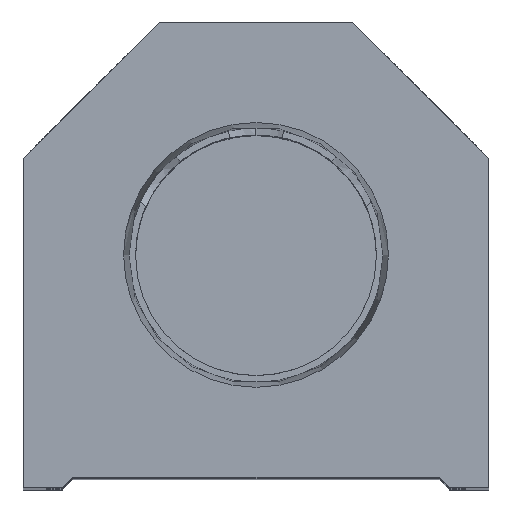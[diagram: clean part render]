
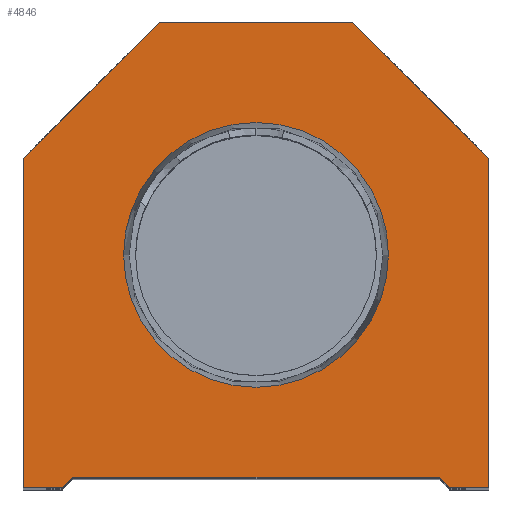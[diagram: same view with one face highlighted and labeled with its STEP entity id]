
A CAD part, top view. The second image highlights one B-rep face of the part: STEP entity #4846.
In plain terms, the highlighted planar face has unit normal (0, 0, 1).
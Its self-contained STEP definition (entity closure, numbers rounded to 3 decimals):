
#111 = LINE ( 'NONE', #5205, #10422 ) ;
#170 = CIRCLE ( 'NONE', #5237, 12.647 ) ;
#198 = VERTEX_POINT ( 'NONE', #19492 ) ;
#1074 = VECTOR ( 'NONE', #6109, 1000. ) ;
#1199 = EDGE_CURVE ( 'NONE', #21763, #7951, #7339, .T. ) ;
#1378 = DIRECTION ( 'NONE',  ( 1., 0., 0. ) ) ;
#1529 = VERTEX_POINT ( 'NONE', #7600 ) ;
#1793 = CARTESIAN_POINT ( 'NONE',  ( -17.5, 1., 0. ) ) ;
#2570 = CARTESIAN_POINT ( 'NONE',  ( 9.25, 44.5, 0. ) ) ;
#2927 = VERTEX_POINT ( 'NONE', #11822 ) ;
#3158 = CARTESIAN_POINT ( 'NONE',  ( -9.25, 44.5, 0. ) ) ;
#3319 = DIRECTION ( 'NONE',  ( -0.707, 0.707, 0. ) ) ;
#3434 = DIRECTION ( 'NONE',  ( 0., 0., 1. ) ) ;
#3526 = LINE ( 'NONE', #1793, #3994 ) ;
#3585 = ORIENTED_EDGE ( 'NONE', *, *, #5866, .T. ) ;
#3602 = ORIENTED_EDGE ( 'NONE', *, *, #13713, .T. ) ;
#3994 = VECTOR ( 'NONE', #10505, 1000. ) ;
#4699 = ORIENTED_EDGE ( 'NONE', *, *, #18335, .T. ) ;
#4783 = LINE ( 'NONE', #6697, #20861 ) ;
#4846 = ADVANCED_FACE ( 'NONE', ( #21048, #20828 ), #15485, .T. ) ;
#4848 = CIRCLE ( 'NONE', #19265, 12.647 ) ;
#5043 = EDGE_CURVE ( 'NONE', #11147, #18253, #111, .T. ) ;
#5205 = CARTESIAN_POINT ( 'NONE',  ( 9.25, 44.5, 0. ) ) ;
#5237 = AXIS2_PLACEMENT_3D ( 'NONE', #7274, #12464, #1378 ) ;
#5351 = DIRECTION ( 'NONE',  ( 1., 0., 0. ) ) ;
#5744 = VERTEX_POINT ( 'NONE', #15981 ) ;
#5866 = EDGE_CURVE ( 'NONE', #198, #2927, #13925, .T. ) ;
#5959 = CARTESIAN_POINT ( 'NONE',  ( -18.5, 0., 0. ) ) ;
#6109 = DIRECTION ( 'NONE',  ( 0.707, 0.707, 0. ) ) ;
#6140 = LINE ( 'NONE', #6242, #20048 ) ;
#6242 = CARTESIAN_POINT ( 'NONE',  ( 17.5, 0., 0. ) ) ;
#6467 = CARTESIAN_POINT ( 'NONE',  ( 9.25, 9.25, 0. ) ) ;
#6625 = CARTESIAN_POINT ( 'NONE',  ( -22.25, 0., 0. ) ) ;
#6697 = CARTESIAN_POINT ( 'NONE',  ( 22.25, 31.5, 0. ) ) ;
#6868 = CARTESIAN_POINT ( 'NONE',  ( -17.5, 0., 0. ) ) ;
#7012 = DIRECTION ( 'NONE',  ( -1., 0., 0. ) ) ;
#7274 = CARTESIAN_POINT ( 'NONE',  ( 0., 22.25, 0. ) ) ;
#7339 = LINE ( 'NONE', #17963, #19751 ) ;
#7600 = CARTESIAN_POINT ( 'NONE',  ( 17.5, 1., 0. ) ) ;
#7888 = ORIENTED_EDGE ( 'NONE', *, *, #19766, .F. ) ;
#7951 = VERTEX_POINT ( 'NONE', #6625 ) ;
#8744 = CARTESIAN_POINT ( 'NONE',  ( 22.25, 0., 0. ) ) ;
#8776 = ORIENTED_EDGE ( 'NONE', *, *, #10042, .T. ) ;
#8871 = VECTOR ( 'NONE', #13315, 1000. ) ;
#9117 = EDGE_CURVE ( 'NONE', #5744, #19229, #170, .T. ) ;
#9135 = VECTOR ( 'NONE', #17123, 1000. ) ;
#9822 = DIRECTION ( 'NONE',  ( 1., 0., 0. ) ) ;
#10042 = EDGE_CURVE ( 'NONE', #18253, #21763, #17136, .T. ) ;
#10232 = ORIENTED_EDGE ( 'NONE', *, *, #1199, .T. ) ;
#10406 = VECTOR ( 'NONE', #20519, 1000. ) ;
#10422 = VECTOR ( 'NONE', #7012, 1000. ) ;
#10505 = DIRECTION ( 'NONE',  ( 1., 0., 0. ) ) ;
#10739 = EDGE_LOOP ( 'NONE', ( #4699, #20853, #13736, #11602, #3602, #3585, #11698, #10834, #8776, #10232 ) ) ;
#10834 = ORIENTED_EDGE ( 'NONE', *, *, #5043, .T. ) ;
#11147 = VERTEX_POINT ( 'NONE', #2570 ) ;
#11397 = CARTESIAN_POINT ( 'NONE',  ( 0., 22.25, 0. ) ) ;
#11602 = ORIENTED_EDGE ( 'NONE', *, *, #20490, .T. ) ;
#11698 = ORIENTED_EDGE ( 'NONE', *, *, #22130, .T. ) ;
#11720 = CARTESIAN_POINT ( 'NONE',  ( -22.25, 31.5, 0. ) ) ;
#11822 = CARTESIAN_POINT ( 'NONE',  ( 22.25, 31.5, 0. ) ) ;
#11855 = DIRECTION ( 'NONE',  ( 0., 0., 1. ) ) ;
#11942 = DIRECTION ( 'NONE',  ( -0.707, -0.707, 0. ) ) ;
#12030 = LINE ( 'NONE', #6868, #9135 ) ;
#12180 = AXIS2_PLACEMENT_3D ( 'NONE', #17310, #3434, #5351 ) ;
#12220 = EDGE_CURVE ( 'NONE', #21294, #1529, #3526, .T. ) ;
#12464 = DIRECTION ( 'NONE',  ( 0., 0., 1. ) ) ;
#12908 = CARTESIAN_POINT ( 'NONE',  ( -17.5, 1., 0. ) ) ;
#13117 = EDGE_CURVE ( 'NONE', #21120, #21294, #19206, .T. ) ;
#13254 = CARTESIAN_POINT ( 'NONE',  ( 12.647, 22.25, 0. ) ) ;
#13315 = DIRECTION ( 'NONE',  ( 0.707, -0.707, 0. ) ) ;
#13713 = EDGE_CURVE ( 'NONE', #18248, #198, #6140, .T. ) ;
#13736 = ORIENTED_EDGE ( 'NONE', *, *, #12220, .T. ) ;
#13925 = LINE ( 'NONE', #8744, #10406 ) ;
#14514 = CARTESIAN_POINT ( 'NONE',  ( -22.25, 31.5, 0. ) ) ;
#15343 = LINE ( 'NONE', #6467, #8871 ) ;
#15485 = PLANE ( 'NONE',  #12180 ) ;
#15981 = CARTESIAN_POINT ( 'NONE',  ( -12.647, 22.25, 0. ) ) ;
#16387 = VECTOR ( 'NONE', #11942, 1000. ) ;
#16674 = CARTESIAN_POINT ( 'NONE',  ( 18.5, 0., 0. ) ) ;
#17123 = DIRECTION ( 'NONE',  ( 1., 0., 0. ) ) ;
#17136 = LINE ( 'NONE', #11720, #16387 ) ;
#17310 = CARTESIAN_POINT ( 'NONE',  ( 0., 0., 0. ) ) ;
#17671 = ORIENTED_EDGE ( 'NONE', *, *, #9117, .F. ) ;
#17963 = CARTESIAN_POINT ( 'NONE',  ( -22.25, 0., 0. ) ) ;
#18248 = VERTEX_POINT ( 'NONE', #16674 ) ;
#18253 = VERTEX_POINT ( 'NONE', #3158 ) ;
#18283 = CARTESIAN_POINT ( 'NONE',  ( -9.25, 9.25, 0. ) ) ;
#18335 = EDGE_CURVE ( 'NONE', #7951, #21120, #12030, .T. ) ;
#18419 = DIRECTION ( 'NONE',  ( 1., 0., 0. ) ) ;
#19206 = LINE ( 'NONE', #18283, #1074 ) ;
#19229 = VERTEX_POINT ( 'NONE', #13254 ) ;
#19265 = AXIS2_PLACEMENT_3D ( 'NONE', #11397, #11855, #9822 ) ;
#19492 = CARTESIAN_POINT ( 'NONE',  ( 22.25, 0., 0. ) ) ;
#19561 = DIRECTION ( 'NONE',  ( 0., -1., 0. ) ) ;
#19751 = VECTOR ( 'NONE', #19561, 1000. ) ;
#19766 = EDGE_CURVE ( 'NONE', #19229, #5744, #4848, .T. ) ;
#20048 = VECTOR ( 'NONE', #18419, 1000. ) ;
#20490 = EDGE_CURVE ( 'NONE', #1529, #18248, #15343, .T. ) ;
#20519 = DIRECTION ( 'NONE',  ( 0., 1., 0. ) ) ;
#20828 = FACE_OUTER_BOUND ( 'NONE', #10739, .T. ) ;
#20853 = ORIENTED_EDGE ( 'NONE', *, *, #13117, .T. ) ;
#20861 = VECTOR ( 'NONE', #3319, 1000. ) ;
#21048 = FACE_BOUND ( 'NONE', #22143, .T. ) ;
#21120 = VERTEX_POINT ( 'NONE', #5959 ) ;
#21294 = VERTEX_POINT ( 'NONE', #12908 ) ;
#21763 = VERTEX_POINT ( 'NONE', #14514 ) ;
#22130 = EDGE_CURVE ( 'NONE', #2927, #11147, #4783, .T. ) ;
#22143 = EDGE_LOOP ( 'NONE', ( #7888, #17671 ) ) ;
